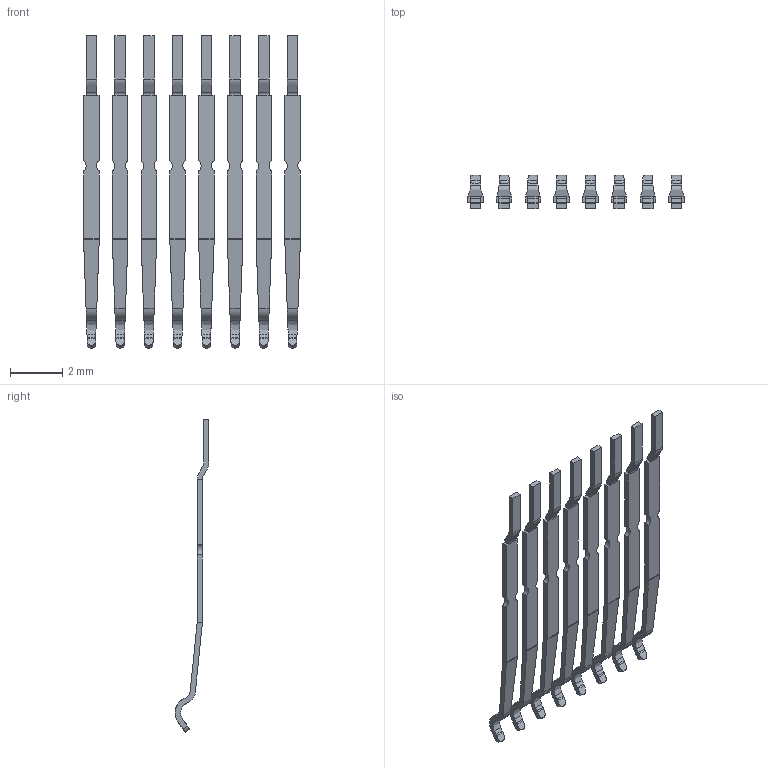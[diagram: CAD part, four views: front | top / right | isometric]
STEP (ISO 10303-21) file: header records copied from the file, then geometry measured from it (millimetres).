
FILE_DESCRIPTION((''),'2;1');
FILE_NAME('T-DSC20-100X00-C_AF0_ASM_1_ASM','2008-06-30T',('GRA'),(''),'PRO/ENGINEER BY PARAMETRIC TECHNOLOGY CORPORATION, 2006170','PRO/ENGINEER BY PARAMETRIC TECHNOLOGY CORPORATION, 2006170','');
FILE_SCHEMA(('CONFIG_CONTROL_DESIGN'));
Length unit declared in the file: millimetre
Products named in the file (2): T-DSC20-100X00_1_PRT; T-DSC20-100X00-C_AF0_ASM_1_ASM
Assembly tree (8 placements, depth 2):
  T-DSC20-100X00-C_AF0_ASM_1_ASM
    T-DSC20-100X00_1_PRT  x8
Bounding box: 8.3 x 1.29 x 11.95 mm (x, y, z)
Volume: 9.9 mm3; surface area: 139.6 mm2
Topology: 8 solids, 8 shells, 376 faces, 1032 edges, 672 vertices
Faces by surface type: plane 192, cylinder 136, bspline 48
Entity records: 1791 total; most frequent: CARTESIAN_POINT 545, ORIENTED_EDGE 258, DIRECTION 225, EDGE_CURVE 129, VERTEX_POINT 84, AXIS2_PLACEMENT_3D 79, VECTOR 67, LINE 67
